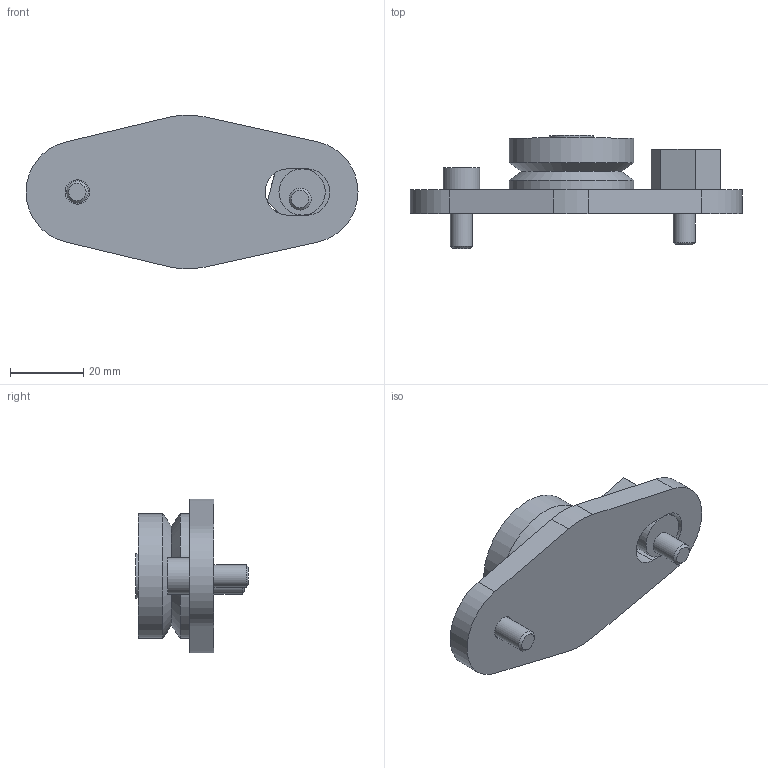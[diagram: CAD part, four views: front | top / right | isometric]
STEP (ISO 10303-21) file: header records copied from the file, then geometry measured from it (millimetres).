
FILE_DESCRIPTION( ( 'STEP AP203' ), '1' );
FILE_NAME( 'p:/temp/worker_333/temp/exporttempdir_3604_112_xontt/format_0/RBHJ34E.stp', '2022-06-02T04:31:41', ( 'License CC BY-ND 4.0' ), ( 'CADENAS' ), ' ', 'PARTsolutions', ' ' );
FILE_SCHEMA( ( 'CONFIG_CONTROL_DESIGN' ) );
Length unit declared in the file: millimetre
Products named in the file (1): _RBHJ34E
Bounding box: 90.5 x 30.8 x 41.91 mm (x, y, z)
Volume: 33698.8 mm3; surface area: 11086.8 mm2
Topology: 1 solids, 1 shells, 64 faces, 149 edges, 98 vertices
Faces by surface type: plane 45, cylinder 15, cone 4
Full cylindrical faces by diameter (mm): 6 x2, 6.6 x1, 10 x2, 12 x1, 12.61 x1, 34 x2
Entity records: 1772 total; most frequent: DIRECTION 298, CARTESIAN_POINT 293, ORIENTED_EDGE 266, EDGE_CURVE 133, AXIS2_PLACEMENT_3D 100, LINE 98, VECTOR 98, VERTEX_POINT 95
